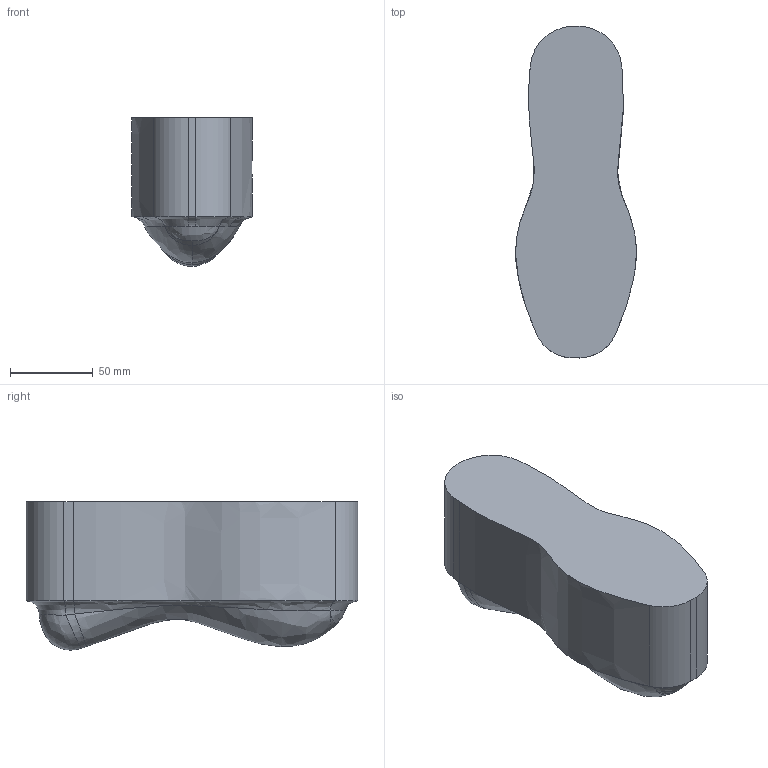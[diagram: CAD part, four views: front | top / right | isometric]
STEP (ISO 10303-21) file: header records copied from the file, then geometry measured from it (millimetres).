
FILE_DESCRIPTION(('Open CASCADE Model'),'2;1');
FILE_NAME('Open CASCADE Shape Model','2026-08-19T06:39:51',('Author'),( 'Open CASCADE'),'Open CASCADE STEP processor 7.9','Open CASCADE 7.9' ,'Unknown');
FILE_SCHEMA(('AUTOMOTIVE_DESIGN { 1 0 10303 214 1 1 1 1 }'));
Length unit declared in the file: millimetre
Products named in the file (1): Open CASCADE STEP translator 7.9 1
Bounding box: 73.16 x 201.01 x 89.98 mm (x, y, z)
Volume: 820449.3 mm3; surface area: 55514.7 mm2
Topology: 1 solids, 1 shells, 27 faces, 61 edges, 36 vertices
Faces by surface type: bspline 18, extrusion 8, plane 1
Entity records: 18188 total; most frequent: CARTESIAN_POINT 17236, B_SPLINE_CURVE_WITH_KNOTS 143, ORIENTED_EDGE 122, PCURVE 122, DEFINITIONAL_REPRESENTATION 122, DIRECTION 66, EDGE_CURVE 61, SURFACE_CURVE 61
